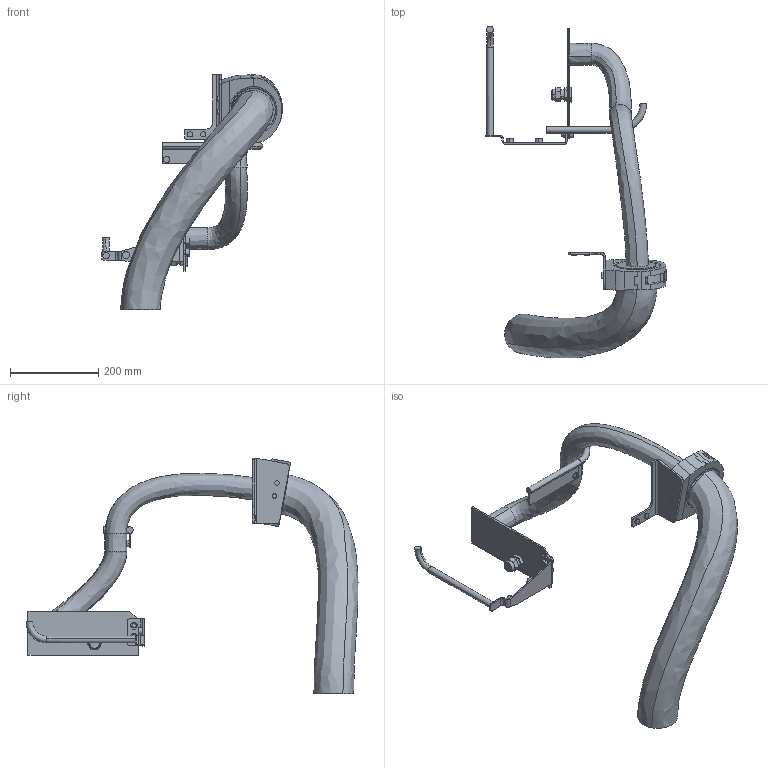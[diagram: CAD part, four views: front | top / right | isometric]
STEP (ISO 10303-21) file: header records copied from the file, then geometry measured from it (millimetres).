
FILE_DESCRIPTION (( 'STEP AP214' ), '1' );
FILE_NAME ('IRB77X0-LID-MH_All_OC_01_LINK03a_CABLE.step', '2026-01-28T09:15:58', ( '' ), ( '' ), 'SwSTEP 2.0', 'SolidWorks 2024', '' );
FILE_SCHEMA (( 'AUTOMOTIVE_DESIGN' ));
Length unit declared in the file: millimetre
Products named in the file (1): IRB77X0-LID-MH_All_OC_01_LINK03a_CABLE
Bounding box: 409.03 x 751.42 x 533 mm (x, y, z)
Volume: 6231268.7 mm3; surface area: 479588.5 mm2
Topology: 1 solids, 2 shells, 352 faces, 881 edges, 561 vertices
Faces by surface type: plane 193, cylinder 108, cone 17, bspline 16, sphere 14, torus 4
Entity records: 21739 total; most frequent: CARTESIAN_POINT 9481, ORIENTED_EDGE 1762, DIRECTION 1727, EDGE_CURVE 881, AXIS2_PLACEMENT_3D 634, VERTEX_POINT 561, VECTOR 459, LINE 459
